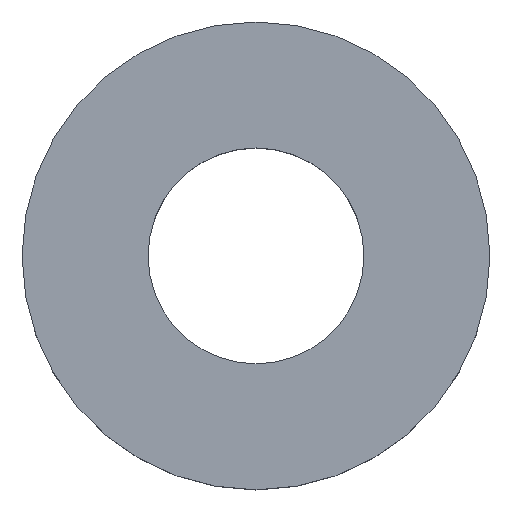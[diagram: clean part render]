
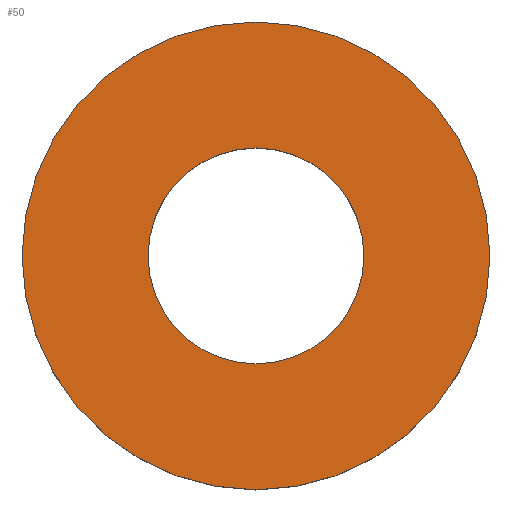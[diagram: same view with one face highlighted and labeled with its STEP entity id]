
A CAD part, top view. The second image highlights one B-rep face of the part: STEP entity #50.
In plain terms, the highlighted planar face has unit normal (0, 0, 1).
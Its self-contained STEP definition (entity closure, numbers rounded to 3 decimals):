
#21 = EDGE_CURVE('',#22,#22,#24,.T.);
#22 = VERTEX_POINT('',#23);
#23 = CARTESIAN_POINT('',(46.6,4.,-9.6));
#24 = CIRCLE('',#25,2.6);
#25 = AXIS2_PLACEMENT_3D('',#26,#27,#28);
#26 = CARTESIAN_POINT('',(44.,4.,-9.6));
#27 = DIRECTION('',(0.,0.,1.));
#28 = DIRECTION('',(1.,0.,0.));
#50 = ADVANCED_FACE('',(#51,#54),#65,.T.);
#51 = FACE_BOUND('',#52,.T.);
#52 = EDGE_LOOP('',(#53));
#53 = ORIENTED_EDGE('',*,*,#21,.T.);
#54 = FACE_BOUND('',#55,.T.);
#55 = EDGE_LOOP('',(#56));
#56 = ORIENTED_EDGE('',*,*,#57,.F.);
#57 = EDGE_CURVE('',#58,#58,#60,.T.);
#58 = VERTEX_POINT('',#59);
#59 = CARTESIAN_POINT('',(45.2,4.,-9.6));
#60 = CIRCLE('',#61,1.2);
#61 = AXIS2_PLACEMENT_3D('',#62,#63,#64);
#62 = CARTESIAN_POINT('',(44.,4.,-9.6));
#63 = DIRECTION('',(0.,0.,1.));
#64 = DIRECTION('',(1.,0.,0.));
#65 = PLANE('',#66);
#66 = AXIS2_PLACEMENT_3D('',#67,#68,#69);
#67 = CARTESIAN_POINT('',(44.,4.,-9.6));
#68 = DIRECTION('',(0.,0.,1.));
#69 = DIRECTION('',(1.,0.,0.));
